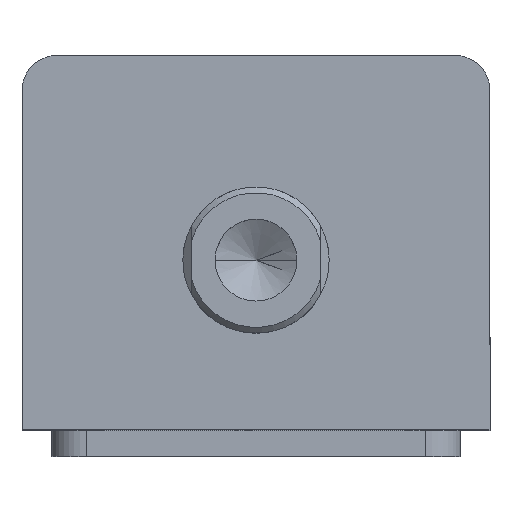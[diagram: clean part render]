
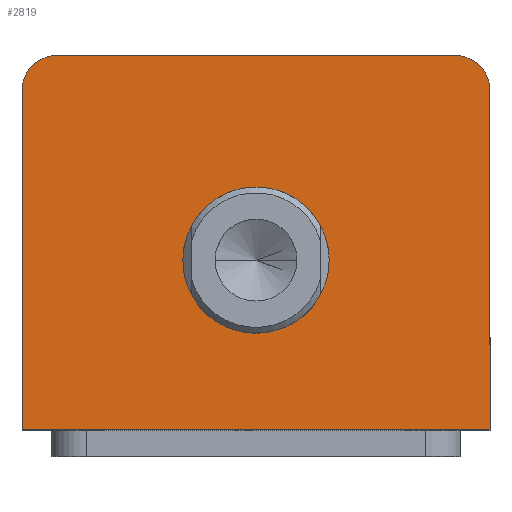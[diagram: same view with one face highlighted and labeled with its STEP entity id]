
A CAD part, top view. The second image highlights one B-rep face of the part: STEP entity #2819.
In plain terms, the highlighted planar face has unit normal (0, 0, 1).
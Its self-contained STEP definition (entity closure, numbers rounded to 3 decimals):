
#18 = PLANE ( 'NONE',  #1401 ) ;
#101 = CARTESIAN_POINT ( 'NONE',  ( 0., 0., 95. ) ) ;
#159 = DIRECTION ( 'NONE',  ( 1., 0., 0. ) ) ;
#161 = DIRECTION ( 'NONE',  ( 0., 0., 1. ) ) ;
#230 = ORIENTED_EDGE ( 'NONE', *, *, #1037, .T. ) ;
#250 = ORIENTED_EDGE ( 'NONE', *, *, #1095, .T. ) ;
#252 = ORIENTED_EDGE ( 'NONE', *, *, #1052, .T. ) ;
#254 = ORIENTED_EDGE ( 'NONE', *, *, #1069, .T. ) ;
#257 = ORIENTED_EDGE ( 'NONE', *, *, #1091, .T. ) ;
#276 = AXIS2_PLACEMENT_3D ( 'NONE', #440, #439, #438 ) ;
#278 = AXIS2_PLACEMENT_3D ( 'NONE', #495, #494, #491 ) ;
#288 = AXIS2_PLACEMENT_3D ( 'NONE', #533, #532, #531 ) ;
#388 = DIRECTION ( 'NONE',  ( -1., 0., 0. ) ) ;
#391 = CARTESIAN_POINT ( 'NONE',  ( -40., 32., 95. ) ) ;
#438 = DIRECTION ( 'NONE',  ( 1., 0., 0. ) ) ;
#439 = DIRECTION ( 'NONE',  ( 0., 0., 1. ) ) ;
#440 = CARTESIAN_POINT ( 'NONE',  ( 0., -3., 95. ) ) ;
#479 = DIRECTION ( 'NONE',  ( 0., -1., 0. ) ) ;
#481 = CARTESIAN_POINT ( 'NONE',  ( -40., 32., 95. ) ) ;
#491 = DIRECTION ( 'NONE',  ( 1., 0., 0. ) ) ;
#492 = DIRECTION ( 'NONE',  ( 0., 1., 0. ) ) ;
#493 = CARTESIAN_POINT ( 'NONE',  ( 40., 32., 95. ) ) ;
#494 = DIRECTION ( 'NONE',  ( 0., 0., 1. ) ) ;
#495 = CARTESIAN_POINT ( 'NONE',  ( -34., 26., 95. ) ) ;
#531 = DIRECTION ( 'NONE',  ( 1., 0., 0. ) ) ;
#532 = DIRECTION ( 'NONE',  ( 0., 0., 1. ) ) ;
#533 = CARTESIAN_POINT ( 'NONE',  ( 34., 26., 95. ) ) ;
#623 = FACE_OUTER_BOUND ( 'NONE', #2113, .T. ) ;
#632 = FACE_BOUND ( 'NONE', #2104, .T. ) ;
#1009 = EDGE_CURVE ( 'NONE', #1971, #1974, #2438, .T. ) ;
#1037 = EDGE_CURVE ( 'NONE', #1941, #1934, #2476, .T. ) ;
#1052 = EDGE_CURVE ( 'NONE', #1934, #1898, #2510, .T. ) ;
#1069 = EDGE_CURVE ( 'NONE', #1885, #1918, #2539, .T. ) ;
#1082 = EDGE_CURVE ( 'NONE', #1898, #1885, #2555, .T. ) ;
#1091 = EDGE_CURVE ( 'NONE', #1918, #1904, #2568, .T. ) ;
#1095 = EDGE_CURVE ( 'NONE', #1904, #1941, #2574, .T. ) ;
#1108 = EDGE_CURVE ( 'NONE', #1974, #1971, #2600, .T. ) ;
#1199 = CARTESIAN_POINT ( 'NONE',  ( 34., 32., 95. ) ) ;
#1277 = CARTESIAN_POINT ( 'NONE',  ( 12.5, -3., 95. ) ) ;
#1280 = CARTESIAN_POINT ( 'NONE',  ( -12.5, -3., 95. ) ) ;
#1313 = CARTESIAN_POINT ( 'NONE',  ( -40., -32., 95. ) ) ;
#1322 = CARTESIAN_POINT ( 'NONE',  ( 40., -32., 95. ) ) ;
#1343 = CARTESIAN_POINT ( 'NONE',  ( -34., 32., 95. ) ) ;
#1360 = CARTESIAN_POINT ( 'NONE',  ( -40., 26., 95. ) ) ;
#1370 = CARTESIAN_POINT ( 'NONE',  ( 40., 26., 95. ) ) ;
#1401 = AXIS2_PLACEMENT_3D ( 'NONE', #101, #161, #159 ) ;
#1493 = ORIENTED_EDGE ( 'NONE', *, *, #1108, .F. ) ;
#1499 = ORIENTED_EDGE ( 'NONE', *, *, #1082, .T. ) ;
#1505 = ORIENTED_EDGE ( 'NONE', *, *, #1009, .F. ) ;
#1885 = VERTEX_POINT ( 'NONE', #1199 ) ;
#1898 = VERTEX_POINT ( 'NONE', #1370 ) ;
#1904 = VERTEX_POINT ( 'NONE', #1360 ) ;
#1918 = VERTEX_POINT ( 'NONE', #1343 ) ;
#1934 = VERTEX_POINT ( 'NONE', #1322 ) ;
#1941 = VERTEX_POINT ( 'NONE', #1313 ) ;
#1971 = VERTEX_POINT ( 'NONE', #1280 ) ;
#1974 = VERTEX_POINT ( 'NONE', #1277 ) ;
#2104 = EDGE_LOOP ( 'NONE', ( #1493, #1505 ) ) ;
#2113 = EDGE_LOOP ( 'NONE', ( #254, #257, #250, #230, #252, #1499 ) ) ;
#2438 = CIRCLE ( 'NONE', #3303, 12.5 ) ;
#2476 = LINE ( 'NONE', #3330, #2483 ) ;
#2483 = VECTOR ( 'NONE', #3519, 1000. ) ;
#2510 = LINE ( 'NONE', #493, #2513 ) ;
#2513 = VECTOR ( 'NONE', #492, 1000. ) ;
#2539 = LINE ( 'NONE', #391, #2542 ) ;
#2542 = VECTOR ( 'NONE', #388, 1000. ) ;
#2555 = CIRCLE ( 'NONE', #288, 6. ) ;
#2568 = CIRCLE ( 'NONE', #278, 6. ) ;
#2574 = LINE ( 'NONE', #481, #2577 ) ;
#2577 = VECTOR ( 'NONE', #479, 1000. ) ;
#2600 = CIRCLE ( 'NONE', #276, 12.5 ) ;
#2819 = ADVANCED_FACE ( 'NONE', ( #632, #623 ), #18, .T. ) ;
#3303 = AXIS2_PLACEMENT_3D ( 'NONE', #3430, #3429, #3428 ) ;
#3330 = CARTESIAN_POINT ( 'NONE',  ( -40., -32., 95. ) ) ;
#3428 = DIRECTION ( 'NONE',  ( 1., 0., 0. ) ) ;
#3429 = DIRECTION ( 'NONE',  ( 0., 0., 1. ) ) ;
#3430 = CARTESIAN_POINT ( 'NONE',  ( 0., -3., 95. ) ) ;
#3519 = DIRECTION ( 'NONE',  ( 1., 0., 0. ) ) ;
